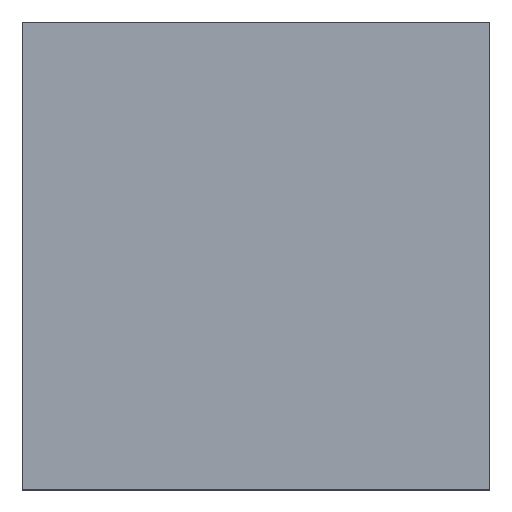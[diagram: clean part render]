
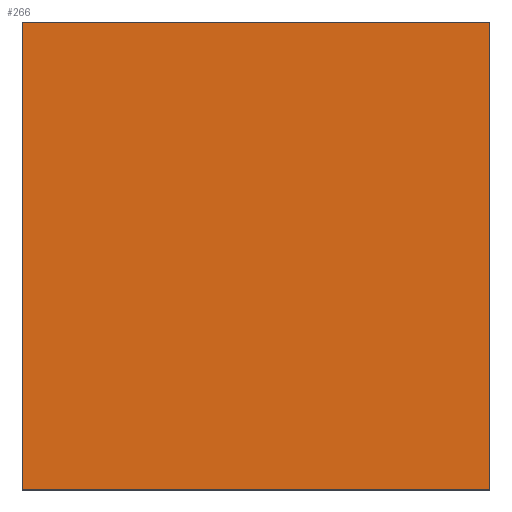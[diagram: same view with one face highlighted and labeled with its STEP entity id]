
A CAD part, top view. The second image highlights one B-rep face of the part: STEP entity #266.
In plain terms, the highlighted planar face has unit normal (0, 0, 1).
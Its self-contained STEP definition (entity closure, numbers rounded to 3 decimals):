
#43 = EDGE_CURVE('',#44,#46,#48,.T.);
#44 = VERTEX_POINT('',#45);
#45 = CARTESIAN_POINT('',(-2.,-2.,2.1));
#46 = VERTEX_POINT('',#47);
#47 = CARTESIAN_POINT('',(-2.,2.,2.1));
#48 = SURFACE_CURVE('',#49,(#53,#65),.PCURVE_S1.);
#49 = LINE('',#50,#51);
#50 = CARTESIAN_POINT('',(-2.,-2.,2.1));
#51 = VECTOR('',#52,1.);
#52 = DIRECTION('',(0.,1.,0.));
#53 = PCURVE('',#54,#59);
#54 = PLANE('',#55);
#55 = AXIS2_PLACEMENT_3D('',#56,#57,#58);
#56 = CARTESIAN_POINT('',(-2.,-2.,0.));
#57 = DIRECTION('',(1.,0.,0.));
#58 = DIRECTION('',(0.,0.,1.));
#59 = DEFINITIONAL_REPRESENTATION('',(#60),#64);
#60 = LINE('',#61,#62);
#61 = CARTESIAN_POINT('',(2.1,0.));
#62 = VECTOR('',#63,1.);
#63 = DIRECTION('',(0.,-1.));
#64 = ( GEOMETRIC_REPRESENTATION_CONTEXT(2) 
PARAMETRIC_REPRESENTATION_CONTEXT() REPRESENTATION_CONTEXT('2D SPACE',''
  ) );
#65 = PCURVE('',#66,#71);
#66 = PLANE('',#67);
#67 = AXIS2_PLACEMENT_3D('',#68,#69,#70);
#68 = CARTESIAN_POINT('',(-2.,-2.,2.1));
#69 = DIRECTION('',(0.,0.,1.));
#70 = DIRECTION('',(1.,0.,0.));
#71 = DEFINITIONAL_REPRESENTATION('',(#72),#76);
#72 = LINE('',#73,#74);
#73 = CARTESIAN_POINT('',(0.,0.));
#74 = VECTOR('',#75,1.);
#75 = DIRECTION('',(0.,1.));
#76 = ( GEOMETRIC_REPRESENTATION_CONTEXT(2) 
PARAMETRIC_REPRESENTATION_CONTEXT() REPRESENTATION_CONTEXT('2D SPACE',''
  ) );
#94 = PLANE('',#95);
#95 = AXIS2_PLACEMENT_3D('',#96,#97,#98);
#96 = CARTESIAN_POINT('',(-2.,-2.,0.));
#97 = DIRECTION('',(0.,1.,0.));
#98 = DIRECTION('',(0.,0.,1.));
#255 = PLANE('',#256);
#256 = AXIS2_PLACEMENT_3D('',#257,#258,#259);
#257 = CARTESIAN_POINT('',(-2.,2.,0.));
#258 = DIRECTION('',(0.,1.,0.));
#259 = DIRECTION('',(0.,0.,1.));
#266 = ADVANCED_FACE('',(#267),#66,.T.);
#267 = FACE_BOUND('',#268,.T.);
#268 = EDGE_LOOP('',(#269,#270,#293,#321));
#269 = ORIENTED_EDGE('',*,*,#43,.F.);
#270 = ORIENTED_EDGE('',*,*,#271,.T.);
#271 = EDGE_CURVE('',#44,#272,#274,.T.);
#272 = VERTEX_POINT('',#273);
#273 = CARTESIAN_POINT('',(2.,-2.,2.1));
#274 = SURFACE_CURVE('',#275,(#279,#286),.PCURVE_S1.);
#275 = LINE('',#276,#277);
#276 = CARTESIAN_POINT('',(-2.,-2.,2.1));
#277 = VECTOR('',#278,1.);
#278 = DIRECTION('',(1.,0.,0.));
#279 = PCURVE('',#66,#280);
#280 = DEFINITIONAL_REPRESENTATION('',(#281),#285);
#281 = LINE('',#282,#283);
#282 = CARTESIAN_POINT('',(0.,0.));
#283 = VECTOR('',#284,1.);
#284 = DIRECTION('',(1.,0.));
#285 = ( GEOMETRIC_REPRESENTATION_CONTEXT(2) 
PARAMETRIC_REPRESENTATION_CONTEXT() REPRESENTATION_CONTEXT('2D SPACE',''
  ) );
#286 = PCURVE('',#94,#287);
#287 = DEFINITIONAL_REPRESENTATION('',(#288),#292);
#288 = LINE('',#289,#290);
#289 = CARTESIAN_POINT('',(2.1,0.));
#290 = VECTOR('',#291,1.);
#291 = DIRECTION('',(0.,1.));
#292 = ( GEOMETRIC_REPRESENTATION_CONTEXT(2) 
PARAMETRIC_REPRESENTATION_CONTEXT() REPRESENTATION_CONTEXT('2D SPACE',''
  ) );
#293 = ORIENTED_EDGE('',*,*,#294,.T.);
#294 = EDGE_CURVE('',#272,#295,#297,.T.);
#295 = VERTEX_POINT('',#296);
#296 = CARTESIAN_POINT('',(2.,2.,2.1));
#297 = SURFACE_CURVE('',#298,(#302,#309),.PCURVE_S1.);
#298 = LINE('',#299,#300);
#299 = CARTESIAN_POINT('',(2.,-2.,2.1));
#300 = VECTOR('',#301,1.);
#301 = DIRECTION('',(0.,1.,0.));
#302 = PCURVE('',#66,#303);
#303 = DEFINITIONAL_REPRESENTATION('',(#304),#308);
#304 = LINE('',#305,#306);
#305 = CARTESIAN_POINT('',(4.,0.));
#306 = VECTOR('',#307,1.);
#307 = DIRECTION('',(0.,1.));
#308 = ( GEOMETRIC_REPRESENTATION_CONTEXT(2) 
PARAMETRIC_REPRESENTATION_CONTEXT() REPRESENTATION_CONTEXT('2D SPACE',''
  ) );
#309 = PCURVE('',#310,#315);
#310 = PLANE('',#311);
#311 = AXIS2_PLACEMENT_3D('',#312,#313,#314);
#312 = CARTESIAN_POINT('',(2.,-2.,0.));
#313 = DIRECTION('',(1.,0.,0.));
#314 = DIRECTION('',(0.,0.,1.));
#315 = DEFINITIONAL_REPRESENTATION('',(#316),#320);
#316 = LINE('',#317,#318);
#317 = CARTESIAN_POINT('',(2.1,0.));
#318 = VECTOR('',#319,1.);
#319 = DIRECTION('',(0.,-1.));
#320 = ( GEOMETRIC_REPRESENTATION_CONTEXT(2) 
PARAMETRIC_REPRESENTATION_CONTEXT() REPRESENTATION_CONTEXT('2D SPACE',''
  ) );
#321 = ORIENTED_EDGE('',*,*,#322,.F.);
#322 = EDGE_CURVE('',#46,#295,#323,.T.);
#323 = SURFACE_CURVE('',#324,(#328,#335),.PCURVE_S1.);
#324 = LINE('',#325,#326);
#325 = CARTESIAN_POINT('',(-2.,2.,2.1));
#326 = VECTOR('',#327,1.);
#327 = DIRECTION('',(1.,0.,0.));
#328 = PCURVE('',#66,#329);
#329 = DEFINITIONAL_REPRESENTATION('',(#330),#334);
#330 = LINE('',#331,#332);
#331 = CARTESIAN_POINT('',(0.,4.));
#332 = VECTOR('',#333,1.);
#333 = DIRECTION('',(1.,0.));
#334 = ( GEOMETRIC_REPRESENTATION_CONTEXT(2) 
PARAMETRIC_REPRESENTATION_CONTEXT() REPRESENTATION_CONTEXT('2D SPACE',''
  ) );
#335 = PCURVE('',#255,#336);
#336 = DEFINITIONAL_REPRESENTATION('',(#337),#341);
#337 = LINE('',#338,#339);
#338 = CARTESIAN_POINT('',(2.1,0.));
#339 = VECTOR('',#340,1.);
#340 = DIRECTION('',(0.,1.));
#341 = ( GEOMETRIC_REPRESENTATION_CONTEXT(2) 
PARAMETRIC_REPRESENTATION_CONTEXT() REPRESENTATION_CONTEXT('2D SPACE',''
  ) );
